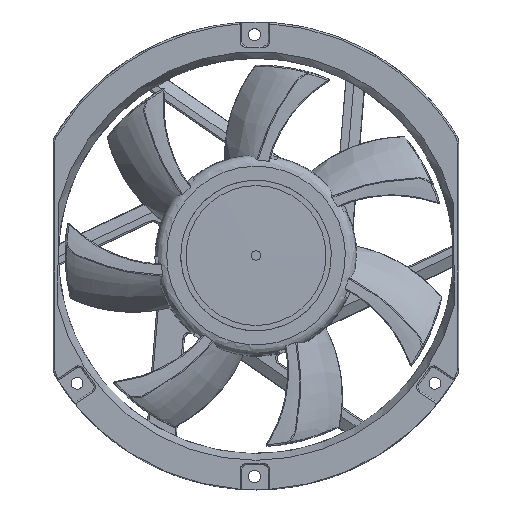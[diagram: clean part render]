
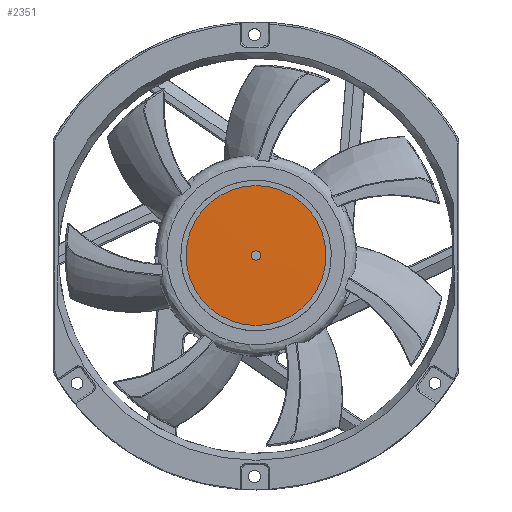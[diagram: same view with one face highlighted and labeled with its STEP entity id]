
A CAD part, top view. The second image highlights one B-rep face of the part: STEP entity #2351.
In plain terms, the highlighted conical face has half-angle 89.569 degrees and reference radius 33.203 mm.
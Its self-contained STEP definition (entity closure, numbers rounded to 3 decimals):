
#725=FACE_BOUND('',#4305,.T.);
#726=FACE_BOUND('',#4306,.T.);
#879=CONICAL_SURFACE('',#16122,33.203,89.569);
#1421=CIRCLE('',#16119,1.75);
#1422=CIRCLE('',#16121,26.005);
#2351=ADVANCED_FACE('',(#725,#726),#879,.T.);
#4305=EDGE_LOOP('',(#9240));
#4306=EDGE_LOOP('',(#9241));
#9240=ORIENTED_EDGE('',*,*,#13418,.T.);
#9241=ORIENTED_EDGE('',*,*,#13417,.F.);
#11267=VERTEX_POINT('',#33448);
#11268=VERTEX_POINT('',#33451);
#13417=EDGE_CURVE('',#11267,#11267,#1421,.T.);
#13418=EDGE_CURVE('',#11268,#11268,#1422,.T.);
#16119=AXIS2_PLACEMENT_3D('',#33447,#19069,#19070);
#16121=AXIS2_PLACEMENT_3D('',#33450,#19073,#19074);
#16122=AXIS2_PLACEMENT_3D('',#33452,#19075,#19076);
#19069=DIRECTION('',(0.,0.,1.));
#19070=DIRECTION('',(-1.,0.,0.));
#19073=DIRECTION('',(0.,0.,1.));
#19074=DIRECTION('',(-1.,0.,0.));
#19075=DIRECTION('',(0.,0.,-1.));
#19076=DIRECTION('',(-1.,0.,0.));
#33447=CARTESIAN_POINT('',(0.,0.,18.237));
#33448=CARTESIAN_POINT('',(-1.75,0.,18.237));
#33450=CARTESIAN_POINT('',(0.,0.,18.054));
#33451=CARTESIAN_POINT('',(-26.005,0.,18.054));
#33452=CARTESIAN_POINT('',(0.,0.,18.));
